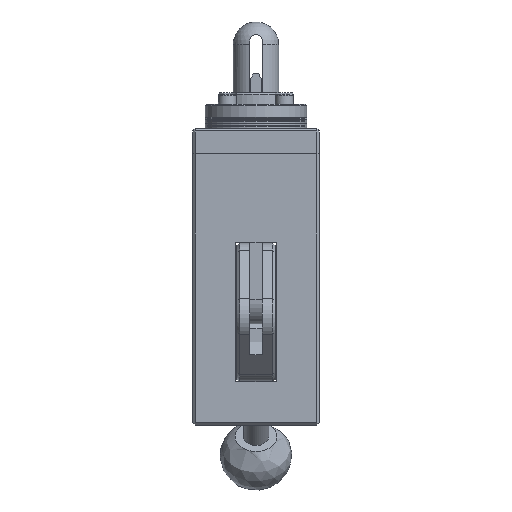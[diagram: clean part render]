
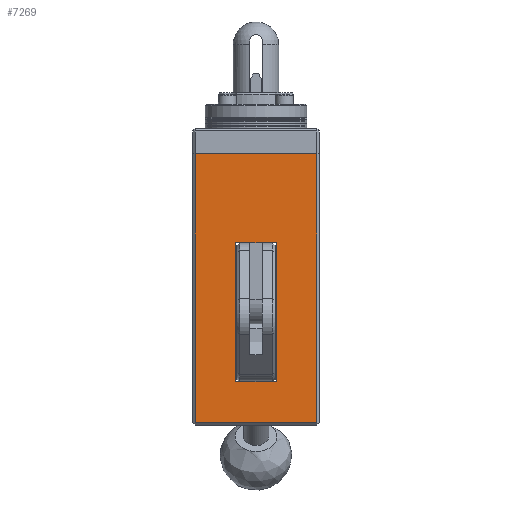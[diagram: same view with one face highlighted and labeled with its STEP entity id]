
A CAD part, left-side view. The second image highlights one B-rep face of the part: STEP entity #7269.
In plain terms, the highlighted planar face has unit normal (-1, 0, 0).
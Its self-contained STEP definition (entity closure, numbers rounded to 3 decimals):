
#254=FACE_BOUND('',#1188,.T.);
#460=PLANE('',#8013);
#736=FACE_OUTER_BOUND('',#1187,.T.);
#1187=EDGE_LOOP('',(#5503,#5504,#5505,#5506));
#1188=EDGE_LOOP('',(#5507,#5508,#5509,#5510));
#1599=LINE('',#11190,#2133);
#1606=LINE('',#11220,#2140);
#1632=LINE('',#11299,#2166);
#1635=LINE('',#11305,#2169);
#1677=LINE('',#11519,#2211);
#1685=LINE('',#11541,#2219);
#1697=LINE('',#11581,#2231);
#1698=LINE('',#11583,#2232);
#2133=VECTOR('',#8907,10.);
#2140=VECTOR('',#8936,10.);
#2166=VECTOR('',#9012,10.);
#2169=VECTOR('',#9017,10.);
#2211=VECTOR('',#9249,10.);
#2219=VECTOR('',#9271,10.);
#2231=VECTOR('',#9315,10.);
#2232=VECTOR('',#9318,10.);
#3150=VERTEX_POINT('',#11187);
#3151=VERTEX_POINT('',#11189);
#3162=VERTEX_POINT('',#11217);
#3163=VERTEX_POINT('',#11219);
#3191=VERTEX_POINT('',#11297);
#3193=VERTEX_POINT('',#11303);
#3270=VERTEX_POINT('',#11518);
#3277=VERTEX_POINT('',#11540);
#3939=EDGE_CURVE('',#3151,#3150,#1599,.T.);
#3953=EDGE_CURVE('',#3162,#3163,#1606,.T.);
#3990=EDGE_CURVE('',#3191,#3162,#1632,.T.);
#3993=EDGE_CURVE('',#3193,#3191,#1635,.T.);
#4096=EDGE_CURVE('',#3270,#3151,#1677,.T.);
#4106=EDGE_CURVE('',#3277,#3270,#1685,.T.);
#4124=EDGE_CURVE('',#3150,#3277,#1697,.T.);
#4125=EDGE_CURVE('',#3163,#3193,#1698,.T.);
#5503=ORIENTED_EDGE('',*,*,#3990,.F.);
#5504=ORIENTED_EDGE('',*,*,#3993,.F.);
#5505=ORIENTED_EDGE('',*,*,#4125,.F.);
#5506=ORIENTED_EDGE('',*,*,#3953,.F.);
#5507=ORIENTED_EDGE('',*,*,#4096,.T.);
#5508=ORIENTED_EDGE('',*,*,#3939,.T.);
#5509=ORIENTED_EDGE('',*,*,#4124,.T.);
#5510=ORIENTED_EDGE('',*,*,#4106,.T.);
#7269=ADVANCED_FACE('',(#736,#254),#460,.T.);
#8013=AXIS2_PLACEMENT_3D('',#11582,#9316,#9317);
#8907=DIRECTION('',(0.,0.,1.));
#8936=DIRECTION('',(0.,0.,1.));
#9012=DIRECTION('',(0.,1.,0.));
#9017=DIRECTION('',(0.,0.,-1.));
#9249=DIRECTION('',(0.,1.,0.));
#9271=DIRECTION('',(0.,0.,-1.));
#9315=DIRECTION('',(0.,-1.,0.));
#9316=DIRECTION('center_axis',(-1.,0.,0.));
#9317=DIRECTION('ref_axis',(0.,-1.,0.));
#9318=DIRECTION('',(0.,-1.,0.));
#11187=CARTESIAN_POINT('',(-36.509,7.434,18.5));
#11189=CARTESIAN_POINT('',(-36.509,7.434,-36.5));
#11190=CARTESIAN_POINT('',(-36.509,7.434,-45.));
#11217=CARTESIAN_POINT('',(-36.509,23.434,-52.5));
#11219=CARTESIAN_POINT('',(-36.509,23.434,53.5));
#11220=CARTESIAN_POINT('',(-36.509,23.434,-53.5));
#11297=CARTESIAN_POINT('',(-36.509,-24.566,-52.5));
#11299=CARTESIAN_POINT('',(-36.509,-6.816,-52.5));
#11303=CARTESIAN_POINT('',(-36.509,-24.566,53.5));
#11305=CARTESIAN_POINT('',(-36.509,-24.566,-53.5));
#11518=CARTESIAN_POINT('',(-36.509,-8.566,-36.5));
#11519=CARTESIAN_POINT('',(-36.509,-0.566,-36.5));
#11540=CARTESIAN_POINT('',(-36.509,-8.566,18.5));
#11541=CARTESIAN_POINT('',(-36.509,-8.566,-45.));
#11581=CARTESIAN_POINT('',(-36.509,-4.566,18.5));
#11582=CARTESIAN_POINT('Origin',(-36.509,-0.566,-53.5));
#11583=CARTESIAN_POINT('',(-36.509,-0.566,53.5));
